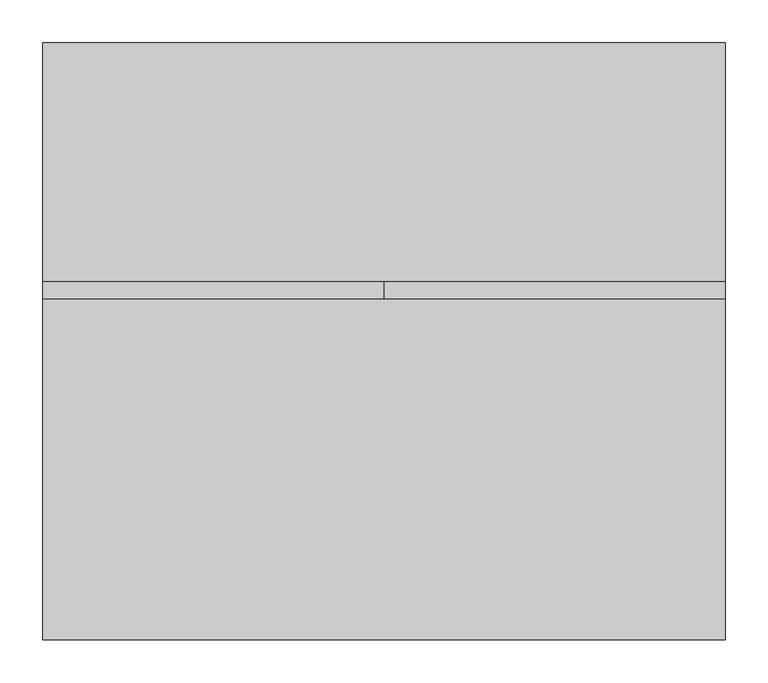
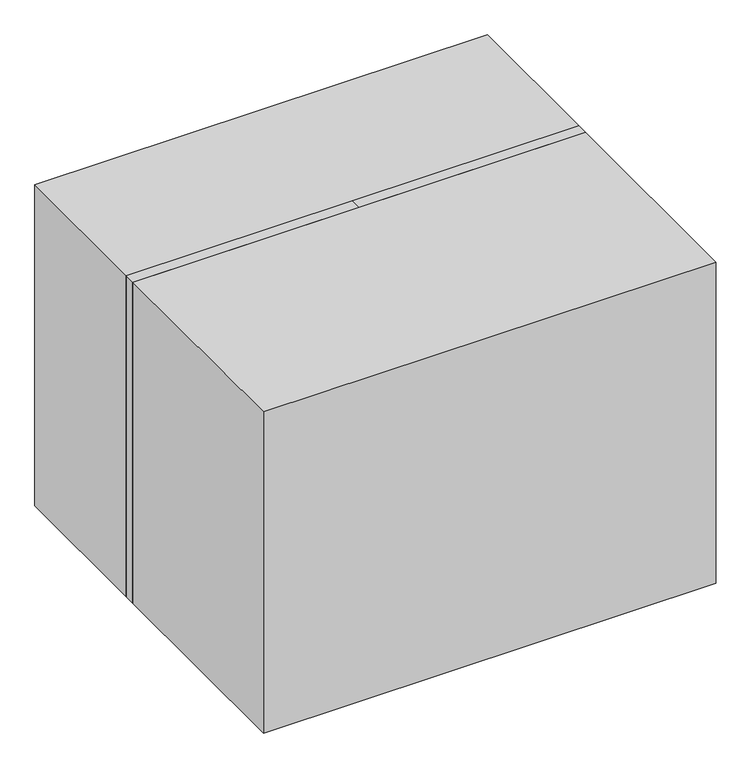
"""IFC4 building model written with IfcOpenShell, lengths in millimetres: electric distribution board geometry, НВО_НавесныеШкафыДвойнаяДверца_DKC : 300х800х600 мм (ГхШхВ)."""

from ifc_helpers import new_model, si_unit, point, frame, frame_2d, origin, place, context, project, spatial, polyline, circle_curve, trimmed, segment, composite_curve, outline, extrude, faceted_brep, source, transform, mapped, element, save
from ifc_brep_helpers import plane_surface, cylinder_surface, revolved_surface, advanced_brep


def electric_distribution_board_686de6ed(model_context):
    return source(origin(), model_context, "Body", "SolidModel", [
        extrude(outline(composite_curve([segment(polyline([(1104.7477452, 29.5638286), (1095.2522548, 29.5638286), (1095.2522548, 37.2400433)]), True, "CONTINUOUS"), segment(trimmed(circle_curve(frame_2d((1104.6374537, 37.2400433)), 9.3851989), [point((1095.2522548, 37.2400433))], [point((1095.9237849, 40.7262928))], False, "CARTESIAN"), True, "CONTINUOUS"), segment(trimmed(circle_curve(frame_2d((1100.4697033, 38.9075175)), 4.8962555), [point((1095.9237849, 40.7262928))], [point((1100.0, 43.7811913))], False, "CARTESIAN"), True, "CONTINUOUS"), segment(trimmed(circle_curve(frame_2d((1099.5302967, 38.9075175)), 4.8962555), [point((1100.0, 43.7811913))], [point((1104.0762151, 40.7262928))], False, "CARTESIAN"), True, "CONTINUOUS"), segment(trimmed(circle_curve(frame_2d((1095.3625463, 37.2400433)), 9.3851989), [point((1104.0762151, 40.7262928))], [point((1104.7477452, 37.2400433))], False, "CARTESIAN"), True, "CONTINUOUS"), segment(polyline([(1104.7477452, 37.2400433), (1104.7477452, 29.5638286)]), True, "CONTINUOUS")], self_intersect=False), holes=[composite_curve([segment(polyline([(1096.5694158, 33.1337798), (1103.4305842, 33.1337798), (1103.4305842, 35.6934813)]), True, "CONTINUOUS"), segment(trimmed(circle_curve(frame_2d((1095.7124901, 35.6934813)), 7.7180942), [point((1103.4305842, 35.6934813))], [point((1102.8023319, 38.743583))], True, "CARTESIAN"), True, "CONTINUOUS"), segment(trimmed(circle_curve(frame_2d((1101.0797503, 38.0025158)), 1.8752248), [point((1102.8023319, 38.743583))], [point((1101.4095765, 39.8485068))], True, "CARTESIAN"), True, "CONTINUOUS"), segment(trimmed(circle_curve(frame_2d((1099.6204625, 29.8350865)), 10.1719966), [point((1101.4095765, 39.8485068))], [point((1100.0, 40.0))], True, "CARTESIAN"), True, "CONTINUOUS"), segment(trimmed(circle_curve(frame_2d((1100.3795375, 29.8350865)), 10.1719966), [point((1100.0, 40.0))], [point((1098.5904235, 39.8485068))], True, "CARTESIAN"), True, "CONTINUOUS"), segment(trimmed(circle_curve(frame_2d((1098.9202497, 38.0025158)), 1.8752248), [point((1098.5904235, 39.8485068))], [point((1097.1976681, 38.743583))], True, "CARTESIAN"), True, "CONTINUOUS"), segment(trimmed(circle_curve(frame_2d((1104.2875099, 35.6934813)), 7.7180942), [point((1097.1976681, 38.743583))], [point((1096.5694158, 35.6934813))], True, "CARTESIAN"), True, "CONTINUOUS"), segment(polyline([(1096.5694158, 35.6934813), (1096.5694158, 33.1337798)]), True, "CONTINUOUS")], self_intersect=False)]), frame((0.0, -302.0, 0.0), z_axis=(0.0, 1.0, 0.0), x_axis=(0.0, 0.0, 1.0)), (0.0, 0.0, 1.0), 2.0),
        extrude(outline(polyline([(1095.2522548, 45.6151273), (1095.2522548, 48.9754382), (1099.7123345, 48.9754382), (1095.2522548, 54.9983827), (1095.2522548, 57.5565331), (1099.4615751, 51.8268154), (1104.7477452, 57.6879796), (1104.7477452, 53.555842), (1100.7598617, 49.0091425), (1104.7477452, 49.0091425), (1104.7477452, 45.6151273), (1095.2522548, 45.6151273)])), frame((0.0, -302.0, 0.0), z_axis=(0.0, 1.0, 0.0), x_axis=(0.0, 0.0, 1.0)), (0.0, 0.0, 1.0), 2.0),
        extrude(outline(composite_curve([segment(polyline([(1095.9256651, 70.4652502), (1097.8354951, 69.8049262)]), True, "CONTINUOUS"), segment(trimmed(circle_curve(frame_2d((1102.5978505, 65.7942994)), 6.2261671), [point((1097.8354951, 69.8049262))], [point((1097.1152744, 62.8436187))], True, "CARTESIAN"), True, "CONTINUOUS"), segment(trimmed(circle_curve(frame_2d((1100.6418654, 64.7416031)), 4.0048956), [point((1097.1152744, 62.8436187))], [point((1099.1168009, 61.0384468))], True, "CARTESIAN"), True, "CONTINUOUS"), segment(trimmed(circle_curve(frame_2d((1100.1864753, 63.6358263)), 2.8090184), [point((1099.1168009, 61.0384468))], [point((1102.4066796, 61.9149902))], True, "CARTESIAN"), True, "CONTINUOUS"), segment(trimmed(circle_curve(frame_2d((1096.6598269, 66.3692613)), 7.2709591), [point((1102.4066796, 61.9149902))], [point((1102.7239019, 70.3809744))], True, "CARTESIAN"), True, "CONTINUOUS"), segment(polyline([(1102.7239019, 70.3809744), (1104.2098258, 69.865315)]), True, "CONTINUOUS"), segment(trimmed(circle_curve(frame_2d((1093.3069203, 65.2089923)), 11.8555763), [point((1104.2098258, 69.865315))], [point((1103.5237173, 59.1946969))], False, "CARTESIAN"), True, "CONTINUOUS"), segment(trimmed(circle_curve(frame_2d((1099.8235501, 61.3728648)), 4.2936759), [point((1103.5237173, 59.1946969))], [point((1100.0, 57.082816))], False, "CARTESIAN"), True, "CONTINUOUS"), segment(trimmed(circle_curve(frame_2d((1099.8852429, 59.8729197)), 2.7924627), [point((1100.0, 57.082816))], [point((1098.3578242, 57.53522))], False, "CARTESIAN"), True, "CONTINUOUS"), segment(trimmed(circle_curve(frame_2d((1101.1607396, 61.8250554)), 5.1243559), [point((1098.3578242, 57.53522))], [point((1096.6882323, 59.3239155))], False, "CARTESIAN"), True, "CONTINUOUS"), segment(trimmed(circle_curve(frame_2d((1107.0403213, 65.1130672)), 11.860861), [point((1096.6882323, 59.3239155))], [point((1095.3803128, 62.9395385))], False, "CARTESIAN"), True, "CONTINUOUS"), segment(trimmed(circle_curve(frame_2d((1109.9921106, 65.6633068)), 14.8634972), [point((1095.3803128, 62.9395385))], [point((1095.9256651, 70.4652502))], False, "CARTESIAN"), True, "CONTINUOUS")], self_intersect=False)), frame((0.0, -302.0, 0.0), z_axis=(0.0, 1.0, 0.0), x_axis=(0.0, 0.0, 1.0)), (0.0, 0.0, 1.0), 2.0),
        extrude(outline(composite_curve([segment(polyline([(1096.0189859, 23.9155885), (1096.8774439, 23.9155885), (1096.8774439, 22.7235784), (1096.0010551, 22.7235784), (1096.0010551, 13.2943909), (1103.9944353, 13.2943909), (1103.9944353, 19.1479157)]), True, "CONTINUOUS"), segment(trimmed(circle_curve(frame_2d((1102.0116356, 19.1479157)), 1.9827998), [point((1103.9944353, 19.1479157))], [point((1102.475339, 17.2200999))], False, "CARTESIAN"), True, "CONTINUOUS"), segment(polyline([(1102.475339, 17.2200999), (1101.4215819, 17.2200999)]), True, "CONTINUOUS"), segment(trimmed(circle_curve(frame_2d((1096.951196, 22.2499778)), 6.7293403), [point((1101.4215819, 17.2200999))], [point((1101.4215819, 27.2798557))], True, "CARTESIAN"), True, "CONTINUOUS"), segment(polyline([(1101.4215819, 27.2798557), (1102.7032878, 27.2798557)]), True, "CONTINUOUS"), segment(trimmed(circle_curve(frame_2d((1099.8014518, 23.2742138)), 4.9462935), [point((1102.7032878, 27.2798557))], [point((1104.7477452, 23.2742138))], False, "CARTESIAN"), True, "CONTINUOUS"), segment(polyline([(1104.7477452, 23.2742138), (1104.7477452, 11.1040454)]), True, "CONTINUOUS"), segment(trimmed(circle_curve(frame_2d((1103.7474827, 11.1040454)), 1.0002626), [point((1104.7477452, 11.1040454))], [point((1103.7474827, 10.1037828))], False, "CARTESIAN"), True, "CONTINUOUS"), segment(polyline([(1103.7474827, 10.1037828), (1096.2517786, 10.1037828)]), True, "CONTINUOUS"), segment(trimmed(circle_curve(frame_2d((1096.2517786, 11.1078162)), 1.0040334), [point((1096.2517786, 10.1037828))], [point((1095.2477452, 11.1078162))], False, "CARTESIAN"), True, "CONTINUOUS"), segment(polyline([(1095.2477452, 11.1078162), (1095.2477452, 23.1443478)]), True, "CONTINUOUS"), segment(trimmed(circle_curve(frame_2d((1096.0189859, 23.1443478)), 0.7712407), [point((1095.2477452, 23.1443478))], [point((1096.0189859, 23.9155885))], False, "CARTESIAN"), True, "CONTINUOUS")], self_intersect=False)), frame((0.0, -302.0, 0.0), z_axis=(0.0, 1.0, 0.0), x_axis=(0.0, 0.0, 1.0)), (0.0, 0.0, 1.0), 2.0),
        extrude(outline(composite_curve([segment(trimmed(circle_curve(frame_2d((1096.3530427, 22.2499778)), 6.7313279), [point((1100.8264198, 27.2798557))], [point((1100.8264198, 17.2200999))], False, "CARTESIAN"), True, "CONTINUOUS"), segment(polyline([(1100.8264198, 17.2200999), (1100.0390525, 17.2200999)]), True, "CONTINUOUS"), segment(trimmed(circle_curve(frame_2d((1094.9471784, 22.2499778)), 7.1572937), [point((1100.0390525, 17.2200999))], [point((1100.0390525, 27.2798557))], True, "CARTESIAN"), True, "CONTINUOUS"), segment(polyline([(1100.0390525, 27.2798557), (1100.8264198, 27.2798557)]), True, "CONTINUOUS")], self_intersect=False)), frame((0.0, -302.0, 0.0), z_axis=(0.0, 1.0, 0.0), x_axis=(0.0, 0.0, 1.0)), (0.0, 0.0, 1.0), 2.0),
        extrude(outline(composite_curve([segment(polyline([(1100.1634686, 26.5387061), (1100.6613161, 25.8851677)]), True, "CONTINUOUS"), segment(trimmed(circle_curve(frame_2d((1105.9199777, 22.3032461)), 6.3626791), [point((1100.6613161, 25.8851677))], [point((1100.6613161, 18.7213245))], True, "CARTESIAN"), True, "CONTINUOUS"), segment(polyline([(1100.6613161, 18.7213245), (1100.107877, 18.1678854)]), True, "CONTINUOUS"), segment(trimmed(circle_curve(frame_2d((1104.3318058, 22.3254287)), 5.9267817), [point((1100.107877, 18.1678854))], [point((1100.1634686, 26.5387061))], False, "CARTESIAN"), True, "CONTINUOUS")], self_intersect=False)), frame((0.0, -302.0, 0.0), z_axis=(0.0, 1.0, 0.0), x_axis=(0.0, 0.0, 1.0)), (0.0, 0.0, 1.0), 2.0),
        extrude(outline(composite_curve([segment(polyline([(1100.7353752, 25.5027872), (1101.0853912, 24.6748764)]), True, "CONTINUOUS"), segment(trimmed(circle_curve(frame_2d((1107.5570353, 22.3033786)), 6.8924726), [point((1101.0853912, 24.6748764))], [point((1101.0853912, 19.9318807))], True, "CARTESIAN"), True, "CONTINUOUS"), segment(polyline([(1101.0853912, 19.9318807), (1100.7353752, 19.0865145)]), True, "CONTINUOUS"), segment(trimmed(circle_curve(frame_2d((1106.4234943, 22.2946509)), 6.5304546), [point((1100.7353752, 19.0865145))], [point((1100.7353752, 25.5027872))], False, "CARTESIAN"), True, "CONTINUOUS")], self_intersect=False)), frame((0.0, -302.0, 0.0), z_axis=(0.0, 1.0, 0.0), x_axis=(0.0, 0.0, 1.0)), (0.0, 0.0, 1.0), 2.0),
        extrude(outline(composite_curve([segment(trimmed(circle_curve(frame_2d((1104.3318058, 22.3254287)), 6.1228472), [point((1100.0255746, 26.6780867))], [point((1099.968144, 18.0303485))], True, "CARTESIAN"), True, "CONTINUOUS"), segment(polyline([(1099.968144, 18.0303485), (1099.2541545, 17.316359)]), True, "CONTINUOUS"), segment(trimmed(circle_curve(frame_2d((1104.3318058, 22.3254287)), 7.1325536), [point((1099.2541545, 17.316359))], [point((1099.3115956, 27.3920658))], False, "CARTESIAN"), True, "CONTINUOUS"), segment(polyline([(1099.3115956, 27.3920658), (1100.0255746, 26.6780867)]), True, "CONTINUOUS")], self_intersect=False)), frame((0.0, -302.0, 0.0), z_axis=(0.0, 1.0, 0.0), x_axis=(0.0, 0.0, 1.0)), (0.0, 0.0, 1.0), 2.0),
        advanced_brep(
        [(20.0, -310.0, 827.0), (20.0, -310.0, 853.0), (20.0, -303.0, 860.0), (20.0, -300.0, 860.0), (20.0, -300.0, 820.0), (20.0, -303.0, 820.0), (60.0, -310.0, 827.0), (60.0, -303.0, 820.0), (60.0, -300.0, 820.0), (60.0, -300.0, 860.0), (60.0, -303.0, 860.0), (60.0, -310.0, 853.0), (30.0, -310.0, 840.0), (50.0, -310.0, 840.0), (50.0, -308.0, 840.0), (30.0, -308.0, 840.0)],
        [
            (0, 1),
            (1, 2, circle_curve(frame((20.0, -303.0, 853.0), z_axis=(-1.0, 0.0, 0.0), x_axis=(0.0, 0.0, -1.0)), 7.0)),
            (2, 3),
            (3, 4),
            (4, 5),
            (5, 0, circle_curve(frame((20.0, -303.0, 827.0), z_axis=(-1.0, 0.0, 0.0), x_axis=(0.0, 0.0, -1.0)), 7.0)),
            (6, 7, circle_curve(frame((60.0, -303.0, 827.0), z_axis=(1.0, 0.0, 0.0), x_axis=(0.0, 0.0, -1.0)), 7.0)),
            (7, 8),
            (8, 9),
            (9, 10),
            (10, 11, circle_curve(frame((60.0, -303.0, 853.0), z_axis=(1.0, 0.0, 0.0), x_axis=(0.0, 0.0, -1.0)), 7.0)),
            (11, 6),
            (0, 6),
            (11, 1),
            (12, 13, circle_curve(frame((40.0, -310.0, 840.0), z_axis=(0.0, 1.0, 0.0), x_axis=(-1.0, 0.0, 0.0)), 10.0)),
            (13, 12, circle_curve(frame((40.0, -310.0, 840.0), z_axis=(0.0, 1.0, 0.0), x_axis=(-1.0, 0.0, 0.0)), 10.0)),
            (10, 2),
            (9, 3),
            (8, 4),
            (7, 5),
            (14, 15, circle_curve(frame((40.0, -308.0, 840.0), z_axis=(0.0, -1.0, 0.0), x_axis=(-1.0, 0.0, 0.0)), 10.0)),
            (15, 14, circle_curve(frame((40.0, -308.0, 840.0), z_axis=(0.0, -1.0, 0.0), x_axis=(-1.0, 0.0, 0.0)), 10.0)),
            (14, 13),
            (12, 15),
        ],
        [
            plane_surface(frame((20.0, -310.0, 852.2232354), z_axis=(-1.0, 0.0, 0.0), x_axis=(0.0, 0.0, 1.0))),
            plane_surface(frame((60.0, -310.0, 852.2232354), z_axis=(1.0, 0.0, 0.0), x_axis=(0.0, 0.0, -1.0))),
            plane_surface(frame((20.0, -310.0, 827.0), z_axis=(0.0, -1.0, 0.0), x_axis=(1.0, 0.0, 0.0))),
            cylinder_surface(frame((60.0, -303.0, 853.0), z_axis=(-1.0, 0.0, 0.0), x_axis=(0.0, 0.0, -1.0)), 7.0),
            plane_surface(frame((20.0, -303.0, 860.0), z_axis=(0.0, 0.0, 1.0), x_axis=(1.0, 0.0, 0.0))),
            plane_surface(frame((20.0, -300.0, 860.0), z_axis=(0.0, 1.0, 0.0), x_axis=(1.0, 0.0, 0.0))),
            plane_surface(frame((20.0, -300.0, 820.0), z_axis=(0.0, 0.0, -1.0), x_axis=(1.0, 0.0, 0.0))),
            cylinder_surface(frame((60.0, -303.0, 827.0), z_axis=(-1.0, 0.0, 0.0), x_axis=(0.0, 0.0, -1.0)), 7.0),
            plane_surface(frame((30.0, -308.0, 840.0), z_axis=(0.0, -1.0, 0.0), x_axis=(0.0, 0.0, 1.0))),
            revolved_surface(polyline([(30.0, -310.0, 840.0), (30.0, -308.0, 840.0)]), (40.0, -308.0, 840.0), (0.0, -1.0, 0.0)),
        ],
        [
            (0, [[1, 2, 3, 4, 5, 6]]),
            (1, [[7, 8, 9, 10, 11, 12]]),
            (2, [[-1, 13, -12, 14], [15, 16]]),
            (3, [[-2, -14, -11, 17]]),
            (4, [[-3, -17, -10, 18]]),
            (5, [[-4, -18, -9, 19]]),
            (6, [[-5, -19, -8, 20]]),
            (7, [[-6, -20, -7, -13]]),
            (8, [[21, 22]]),
            (9, [[-21, 23, -15, 24]]),
            (9, [[-22, -24, -16, -23]]),
        ],
    ),
        advanced_brep(
        [(20.0, -310.0, 1347.0), (20.0, -310.0, 1373.0), (20.0, -303.0, 1380.0), (20.0, -300.0, 1380.0), (20.0, -300.0, 1340.0), (20.0, -303.0, 1340.0), (60.0, -310.0, 1347.0), (60.0, -303.0, 1340.0), (60.0, -300.0, 1340.0), (60.0, -300.0, 1380.0), (60.0, -303.0, 1380.0), (60.0, -310.0, 1373.0), (30.0, -310.0, 1360.0), (50.0, -310.0, 1360.0), (50.0, -308.0, 1360.0), (30.0, -308.0, 1360.0)],
        [
            (0, 1),
            (1, 2, circle_curve(frame((20.0, -303.0, 1373.0), z_axis=(-1.0, 0.0, 0.0), x_axis=(0.0, 0.0, -1.0)), 7.0)),
            (2, 3),
            (3, 4),
            (4, 5),
            (5, 0, circle_curve(frame((20.0, -303.0, 1347.0), z_axis=(-1.0, 0.0, 0.0), x_axis=(0.0, 0.0, -1.0)), 7.0)),
            (6, 7, circle_curve(frame((60.0, -303.0, 1347.0), z_axis=(1.0, 0.0, 0.0), x_axis=(0.0, 0.0, -1.0)), 7.0)),
            (7, 8),
            (8, 9),
            (9, 10),
            (10, 11, circle_curve(frame((60.0, -303.0, 1373.0), z_axis=(1.0, 0.0, 0.0), x_axis=(0.0, 0.0, -1.0)), 7.0)),
            (11, 6),
            (0, 6),
            (11, 1),
            (12, 13, circle_curve(frame((40.0, -310.0, 1360.0), z_axis=(0.0, 1.0, 0.0), x_axis=(-1.0, 0.0, 0.0)), 10.0)),
            (13, 12, circle_curve(frame((40.0, -310.0, 1360.0), z_axis=(0.0, 1.0, 0.0), x_axis=(-1.0, 0.0, 0.0)), 10.0)),
            (10, 2),
            (9, 3),
            (8, 4),
            (7, 5),
            (14, 15, circle_curve(frame((40.0, -308.0, 1360.0), z_axis=(0.0, -1.0, 0.0), x_axis=(-1.0, 0.0, 0.0)), 10.0)),
            (15, 14, circle_curve(frame((40.0, -308.0, 1360.0), z_axis=(0.0, -1.0, 0.0), x_axis=(-1.0, 0.0, 0.0)), 10.0)),
            (14, 13),
            (12, 15),
        ],
        [
            plane_surface(frame((20.0, -310.0, 1372.2232354), z_axis=(-1.0, 0.0, 0.0), x_axis=(0.0, 0.0, 1.0))),
            plane_surface(frame((60.0, -310.0, 1372.2232354), z_axis=(1.0, 0.0, 0.0), x_axis=(0.0, 0.0, -1.0))),
            plane_surface(frame((20.0, -310.0, 1347.0), z_axis=(0.0, -1.0, 0.0), x_axis=(1.0, 0.0, 0.0))),
            cylinder_surface(frame((60.0, -303.0, 1373.0), z_axis=(-1.0, 0.0, 0.0), x_axis=(0.0, 0.0, -1.0)), 7.0),
            plane_surface(frame((20.0, -303.0, 1380.0), z_axis=(0.0, 0.0, 1.0), x_axis=(1.0, 0.0, 0.0))),
            plane_surface(frame((20.0, -300.0, 1380.0), z_axis=(0.0, 1.0, 0.0), x_axis=(1.0, 0.0, 0.0))),
            plane_surface(frame((20.0, -300.0, 1340.0), z_axis=(0.0, 0.0, -1.0), x_axis=(1.0, 0.0, 0.0))),
            cylinder_surface(frame((60.0, -303.0, 1347.0), z_axis=(-1.0, 0.0, 0.0), x_axis=(0.0, 0.0, -1.0)), 7.0),
            plane_surface(frame((30.0, -308.0, 1360.0), z_axis=(0.0, -1.0, 0.0), x_axis=(0.0, 0.0, 1.0))),
            revolved_surface(polyline([(30.0, -310.0, 1360.0), (30.0, -308.0, 1360.0)]), (40.0, -308.0, 1360.0), (0.0, -1.0, 0.0)),
        ],
        [
            (0, [[1, 2, 3, 4, 5, 6]]),
            (1, [[7, 8, 9, 10, 11, 12]]),
            (2, [[-1, 13, -12, 14], [15, 16]]),
            (3, [[-2, -14, -11, 17]]),
            (4, [[-3, -17, -10, 18]]),
            (5, [[-4, -18, -9, 19]]),
            (6, [[-5, -19, -8, 20]]),
            (7, [[-6, -20, -7, -13]]),
            (8, [[21, 22]]),
            (9, [[-21, 23, -15, 24]]),
            (9, [[-22, -24, -16, -23]]),
        ],
    ),
        extrude(outline(polyline([(400.0, -280.0), (400.0, -300.0), (0.0, -300.0), (0.0, -280.0), (400.0, -280.0)])), frame((0.0, 0.0, 800.0), z_axis=(0.0, 0.0, 1.0), x_axis=(1.0, 0.0, 0.0)), (0.0, 0.0, 1.0), 600.0),
        extrude(outline(polyline([(380.0, -41.0), (-380.0, -41.0), (-380.0, -40.0), (380.0, -40.0), (380.0, -41.0)])), frame((0.0, 0.0, 820.0), z_axis=(0.0, 0.0, 1.0), x_axis=(1.0, 0.0, 0.0)), (0.0, 0.0, 1.0), 560.0),
        extrude(outline(polyline([(0.0, -280.0), (0.0, -300.0), (-400.0, -300.0), (-400.0, -280.0), (0.0, -280.0)])), frame((0.0, 0.0, 800.0), z_axis=(0.0, 0.0, 1.0), x_axis=(1.0, 0.0, 0.0)), (0.0, 0.0, 1.0), 600.0),
        faceted_brep([(-400.0, 0.0, 1400.0), (400.0, 0.0, 1400.0), (400.0, 0.0, 800.0), (-400.0, 0.0, 800.0), (380.0, -20.0, 820.0), (380.0, -20.0, 1380.0), (-380.0, -20.0, 1380.0), (-380.0, -20.0, 820.0), (400.0, -280.0, 1400.0), (-400.0, -280.0, 1400.0), (-400.0, -280.0, 800.0), (400.0, -280.0, 800.0), (380.0, -280.0, 1380.0), (380.0, -280.0, 820.0), (-380.0, -280.0, 820.0), (-380.0, -280.0, 1380.0)], [[[0, 1, 2, 3]], [[4, 5, 6, 7]], [[8, 9, 10, 11], [12, 13, 14, 15]], [[9, 8, 1, 0]], [[10, 9, 0, 3]], [[11, 10, 3, 2]], [[1, 8, 11, 2]], [[13, 12, 5, 4]], [[14, 13, 4, 7]], [[15, 14, 7, 6]], [[12, 15, 6, 5]]]),
        extrude(outline(polyline([(400.0, -700.0), (-400.0, -700.0), (-400.0, -300.0), (400.0, -300.0), (400.0, -700.0)])), frame((0.0, 0.0, 800.0), z_axis=(0.0, 0.0, 1.0), x_axis=(1.0, 0.0, 0.0)), (0.0, 0.0, 1.0), 600.0),
    ])


if __name__ == "__main__":
    model = new_model("IFC4")
    model_context = context("Model", 3, world=origin())
    ifc_project = project(units=[si_unit("LENGTHUNIT", "METRE", prefix="MILLI")], contexts=[model_context])
    site = spatial("IfcSite", under=ifc_project)
    building = spatial("IfcBuilding", under=site)
    placement = place(None, origin())
    electric_distribution_board_shape = electric_distribution_board_686de6ed(model_context)
    element("IfcElectricDistributionBoard", 1, ObjectType="НВО_НавесныеШкафыДвойнаяДверца_DKC : 300х800х600 мм (ГхШхВ)", at=placement, inside=building, context=model_context, shape_type="MappedRepresentation", body=[
        mapped(electric_distribution_board_shape, transform((0.0, 0.0, 0.0), x_axis=(1.0, 0.0, 0.0), y_axis=(0.0, 1.0, 0.0), z_axis=(0.0, 0.0, 1.0))),
    ])
    save(model, "model.ifc")
